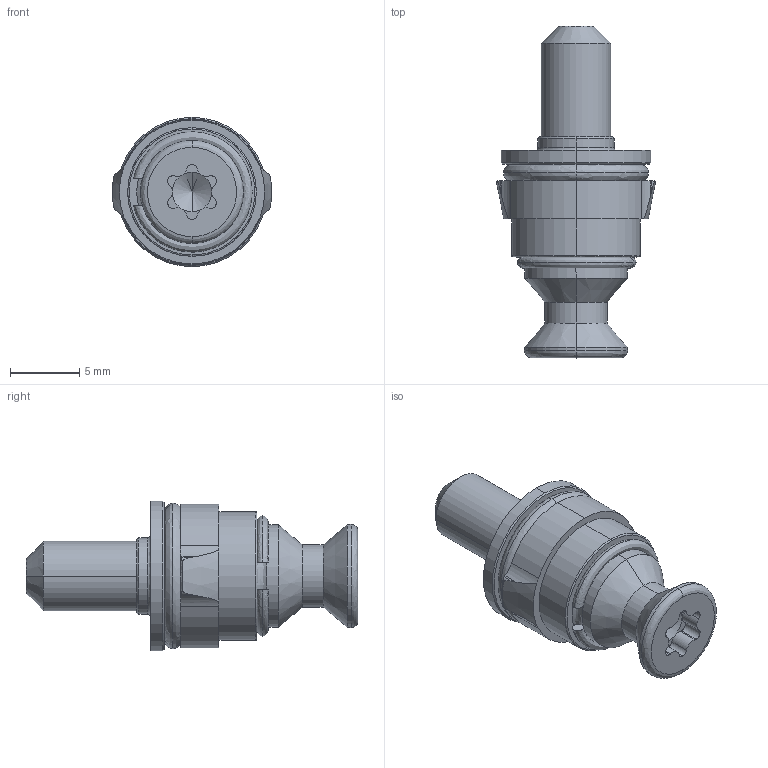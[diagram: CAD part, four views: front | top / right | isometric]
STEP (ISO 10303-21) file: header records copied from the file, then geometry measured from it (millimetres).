
FILE_DESCRIPTION (( 'STEP AP203' ), '1' );
FILE_NAME ('QS022-EAS-M5.STEP', '2017-06-07T09:34:57', ( '' ), ( '' ), 'SwSTEP 2.0', 'SolidWorks 2017', '' );
FILE_SCHEMA (( 'CONFIG_CONTROL_DESIGN' ));
Length unit declared in the file: millimetre
Products named in the file (1): QS022-EAS-M5
Bounding box: 11.51 x 24 x 10.8 mm (x, y, z)
Volume: 981.2 mm3; surface area: 1582.7 mm2
Topology: 7 solids, 7 shells, 181 faces, 477 edges, 277 vertices
Faces by surface type: cylinder 73, cone 55, plane 27, bspline 26
Entity records: 6017 total; most frequent: CARTESIAN_POINT 1819, ORIENTED_EDGE 876, DIRECTION 866, EDGE_CURVE 438, AXIS2_PLACEMENT_3D 364, VERTEX_POINT 277, CIRCLE 208, EDGE_LOOP 191
